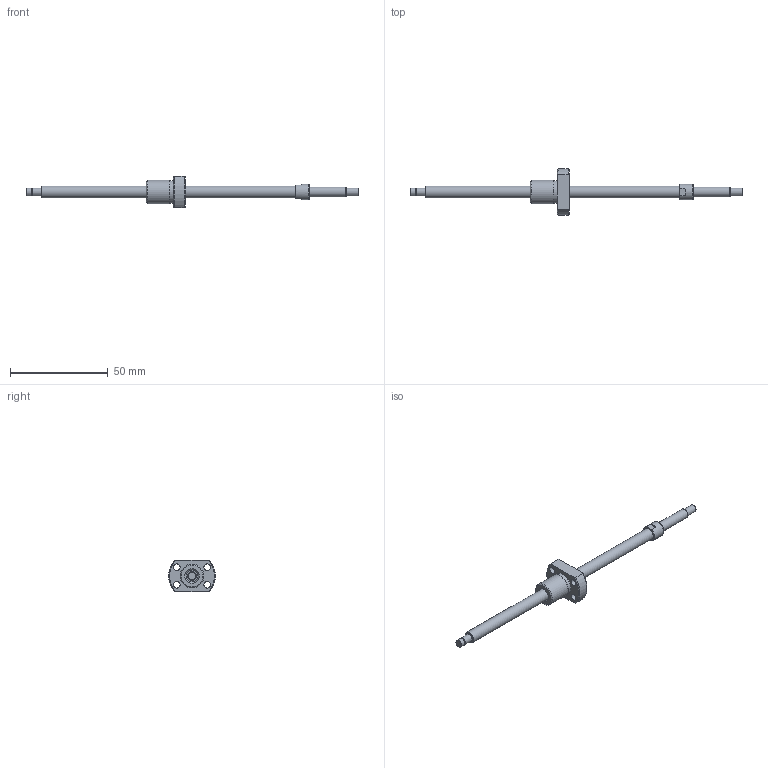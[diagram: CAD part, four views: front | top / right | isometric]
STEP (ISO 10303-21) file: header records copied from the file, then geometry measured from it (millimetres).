
FILE_DESCRIPTION(/* description */ ('STEP AP214'),/* implementation_level */ '2;1');
FILE_NAME(/* name */ 'NSGF0601Z-127R170C3-0-T-S-T-B-(53.5-S)',/* time_stamp */ '2026-08-24T20:04:13+02:00',/* author */ ('License CC BY-ND 4.0'),/* organization */ ('CADENAS'),/* preprocessor_version */ 'ST-DEVELOPER v20',/* originating_system */ 'PARTsolutions',/* authorisation */ ' ');
FILE_SCHEMA (('AUTOMOTIVE_DESIGN {1 0 10303 214 3 1 1}'));
Length unit declared in the file: millimetre
Products named in the file (3): NSGF0601Z-127R170C3-0-T-S-T-B-(53.5-S); NSG0601Z-127R170_(T-S_T-B_2)_2; NSGF0601Z-1
Assembly tree (2 placements, depth 2):
  NSGF0601Z-127R170C3-0-T-S-T-B-(53.5-S)
    NSG0601Z-127R170_(T-S_T-B_2)_2
    NSGF0601Z-1
Bounding box: 170 x 23.92 x 16 mm (x, y, z)
Volume: 7254.3 mm3; surface area: 5373.6 mm2
Topology: 2 solids, 2 shells, 47 faces, 98 edges, 64 vertices
Faces by surface type: plane 19, cylinder 17, cone 9, torus 2
Full cylindrical faces by diameter (mm): 3.4 x4, 3.7 x1, 4 x3, 5 x1, 6 x2, 8 x1, 10 x1, 11.7 x1, 12 x1
Entity records: 1225 total; most frequent: DIRECTION 212, CARTESIAN_POINT 206, ORIENTED_EDGE 144, AXIS2_PLACEMENT_3D 98, EDGE_LOOP 88, FACE_BOUND 88, EDGE_CURVE 72, VERTEX_POINT 60
